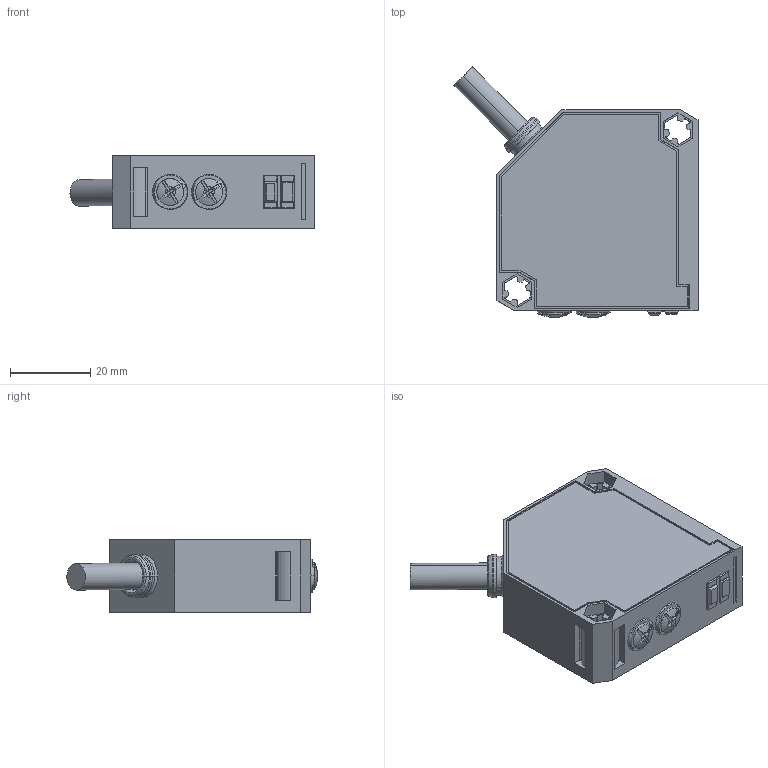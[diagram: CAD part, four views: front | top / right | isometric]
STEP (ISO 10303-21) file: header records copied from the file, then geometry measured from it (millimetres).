
FILE_DESCRIPTION (( 'STEP AP203' ), '1' );
FILE_NAME ('PF50諉彶.STEP', '2023-11-15T05:17:32', ( 'Windows User' ), ( 'P R C' ), 'SwSTEP 2.0', 'SolidWorks 2023', '' );
FILE_SCHEMA (( 'CONFIG_CONTROL_DESIGN' ));
Length unit declared in the file: millimetre
Products named in the file (1): PF50接收
Bounding box: 60.82 x 62.39 x 18 mm (x, y, z)
Surface area: 10415.7 mm2 (no closed solid volume)
Topology: 0 solids, 7 shells, 325 faces, 1002 edges, 668 vertices
Faces by surface type: plane 202, cylinder 92, bspline 21, cone 10
Entity records: 11511 total; most frequent: CARTESIAN_POINT 2758, ORIENTED_EDGE 1796, DIRECTION 1700, EDGE_CURVE 1002, VERTEX_POINT 668, LINE 668, VECTOR 668, AXIS2_PLACEMENT_3D 516
